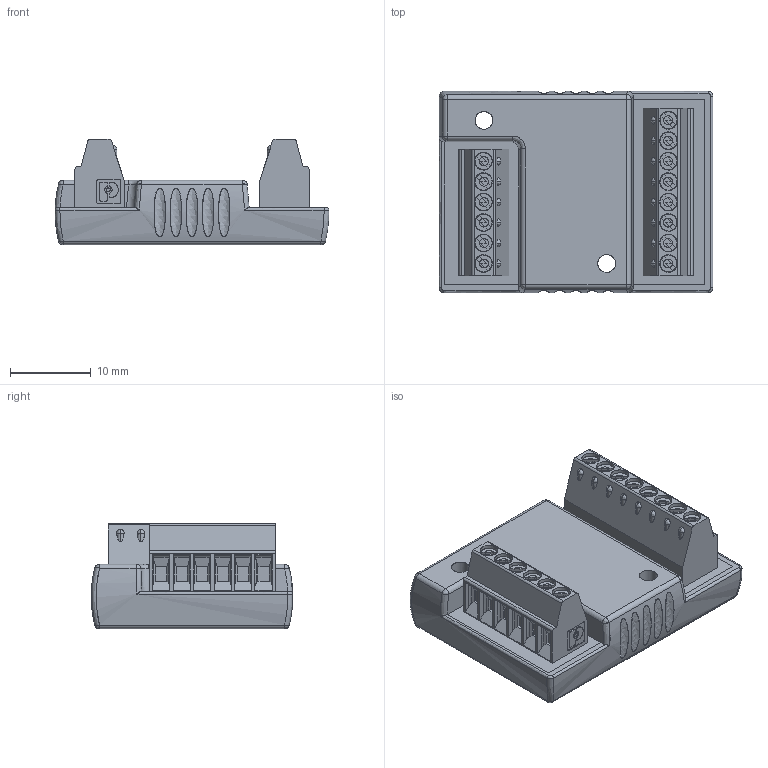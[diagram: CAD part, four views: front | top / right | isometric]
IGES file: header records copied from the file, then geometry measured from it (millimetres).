
Global section: file name: D:\Daten-Huge\PLM_Export\Huellen_aufbr\20120713_fuer_Vertrieb\SC1801S.igs; native system: NX V7.5; preprocessor: SIEMENS PLM Software NX 7.5; author: DR. FRITZ FAULHABER GmbH & Co. KG; organization: DR. FRITZ FAULHABER GmbH & Co. KG; date: 20120713.135043; units: millimetre
Bounding box: 34 x 25 x 13.1 mm (x, y, z)
Surface area: 3760.8 mm2 (no closed solid volume)
Topology: 0 solids, 0 shells, 764 faces, 4137 edges, 4115 vertices
Faces by surface type: bspline 764
